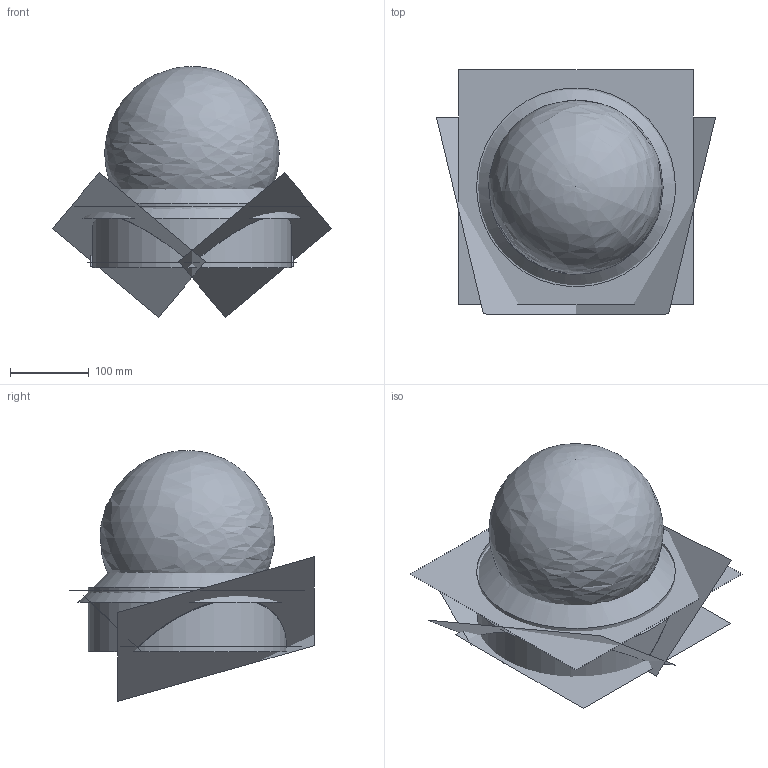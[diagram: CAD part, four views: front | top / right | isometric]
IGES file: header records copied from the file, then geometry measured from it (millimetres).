
Global section: file name: C:\Users\utente\Desktop\3d sito\PAROS D1\PAROS D1.igs; native system: Rhinoceros ( Mar  9 2011 ); preprocessor: Trout Lake IGES 012 Mar  9 2011; date: 170531.101324; units: millimetre
Bounding box: 353.75 x 309.58 x 318.18 mm (x, y, z)
Surface area: 576839.2 mm2 (no closed solid volume)
Topology: 0 solids, 0 shells, 12 faces, 43 edges, 39 vertices
Faces by surface type: bspline 12
